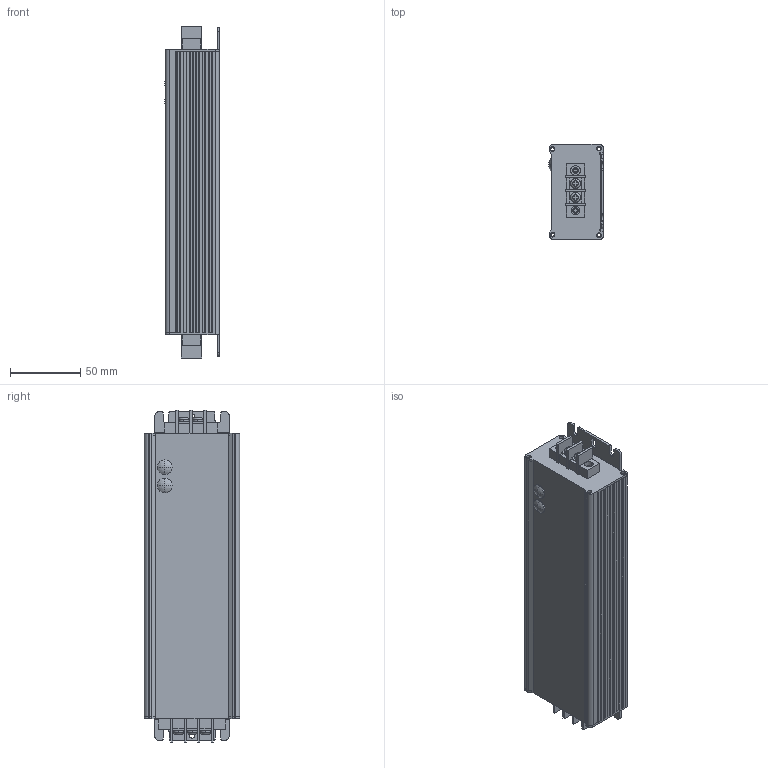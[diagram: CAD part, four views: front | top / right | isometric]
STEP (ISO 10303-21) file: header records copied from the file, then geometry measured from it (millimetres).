
FILE_DESCRIPTION(('OneSpaceDesigner STEP Export'),'2;1');
FILE_NAME('HLG-185-C.stp','2010-06-25T 9:09:46',(''),(''),'OneSpace Designer STEP processor for AP214 (Solid Model)','OneSpace Designer 13.20 11-May-2005 (C) CoCreate Software GmbH','');
FILE_SCHEMA(('AUTOMOTIVE_DESIGN { 1 0 10303 214 1 1 1 1 }'));
Length unit declared in the file: millimetre
Products named in the file (4): ¤W»\; ºÝ¤l; ºÝ¤l1; HLG-185-C
Assembly tree (3 placements, depth 2):
  HLG-185-C
    ºÝ¤l1
    ºÝ¤l
    ¤W»\
Bounding box: 39.04 x 68.05 x 236.99 mm (x, y, z)
Volume: 105402.6 mm3; surface area: 111716.6 mm2
Topology: 3 solids, 5 shells, 609 faces, 1618 edges, 1037 vertices
Faces by surface type: plane 402, cylinder 149, torus 26, cone 24, sphere 8
Entity records: 18539 total; most frequent: CARTESIAN_POINT 3709, ORIENTED_EDGE 3240, DIRECTION 2351, EDGE_CURVE 1618, VERTEX_POINT 1037, VECTOR 1033, LINE 1033, EDGE_LOOP 675
